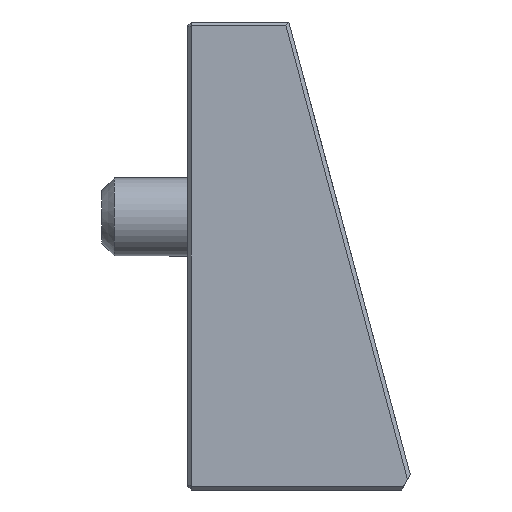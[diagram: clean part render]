
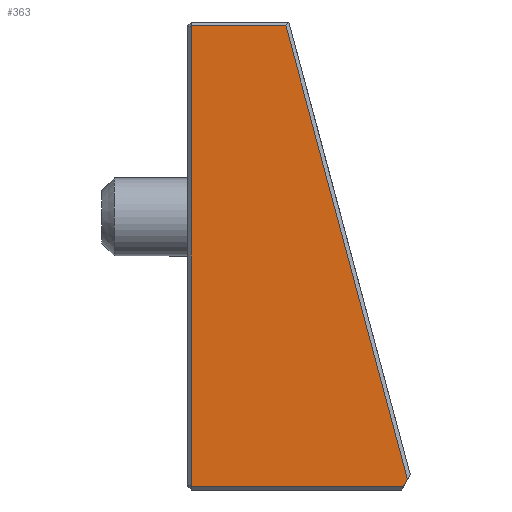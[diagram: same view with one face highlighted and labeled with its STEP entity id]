
A CAD part, left-side view. The second image highlights one B-rep face of the part: STEP entity #363.
In plain terms, the highlighted planar face has unit normal (-1, 0, 0).
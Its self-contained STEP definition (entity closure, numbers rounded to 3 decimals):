
#363=ADVANCED_FACE('',(#1086),#1088,.F.);
#1086=FACE_BOUND('',#1087,.T.);
#1087=EDGE_LOOP('',(#1430,#1431,#1432,#1433,#1434));
#1088=PLANE('',#1089);
#1089=AXIS2_PLACEMENT_3D('',#1090,#1091,#1092);
#1090=CARTESIAN_POINT('',(-80.,0.,0.));
#1091=DIRECTION('',(1.,0.,0.));
#1092=DIRECTION('',(0.,1.,0.));
#1430=ORIENTED_EDGE('',*,*,#1572,.F.);
#1431=ORIENTED_EDGE('',*,*,#1584,.F.);
#1432=ORIENTED_EDGE('',*,*,#1600,.F.);
#1433=ORIENTED_EDGE('',*,*,#1591,.F.);
#1434=ORIENTED_EDGE('',*,*,#1601,.F.);
#1572=EDGE_CURVE('',#1721,#1723,#1724,.F.);
#1584=EDGE_CURVE('',#1742,#1721,#1744,.T.);
#1591=EDGE_CURVE('',#1752,#1755,#1756,.T.);
#1600=EDGE_CURVE('',#1755,#1742,#1768,.T.);
#1601=EDGE_CURVE('',#1723,#1752,#1769,.T.);
#1721=VERTEX_POINT('',#2759);
#1723=VERTEX_POINT('',#2763);
#1724=LINE('',#2764,#2765);
#1742=VERTEX_POINT('',#2804);
#1744=LINE('',#2808,#2809);
#1752=VERTEX_POINT('',#2873);
#1755=VERTEX_POINT('',#2880);
#1756=LINE('',#2881,#2882);
#1768=LINE('',#2912,#2913);
#1769=LINE('',#2915,#2916);
#2759=CARTESIAN_POINT('',(-80.,-28.206,-33.681));
#2763=CARTESIAN_POINT('',(-80.,-27.733,-34.5));
#2764=CARTESIAN_POINT('',(-80.,-27.733,-34.5));
#2765=VECTOR('',#2766,1.);
#2766=DIRECTION('',(0.,-0.5,0.866));
#2804=CARTESIAN_POINT('',(-80.,-12.616,24.5));
#2808=CARTESIAN_POINT('',(-80.,-12.616,24.5));
#2809=VECTOR('',#2810,1.);
#2810=DIRECTION('',(0.,-0.259,-0.966));
#2873=CARTESIAN_POINT('',(-80.,-0.5,-34.5));
#2880=CARTESIAN_POINT('',(-80.,-0.5,24.5));
#2881=CARTESIAN_POINT('',(-80.,-0.5,-34.5));
#2882=VECTOR('',#2883,1.);
#2883=DIRECTION('',(0.,0.,1.));
#2912=CARTESIAN_POINT('',(-80.,-0.5,24.5));
#2913=VECTOR('',#2914,1.);
#2914=DIRECTION('',(0.,-1.,0.));
#2915=CARTESIAN_POINT('',(-80.,-27.733,-34.5));
#2916=VECTOR('',#2917,1.);
#2917=DIRECTION('',(0.,1.,0.));
